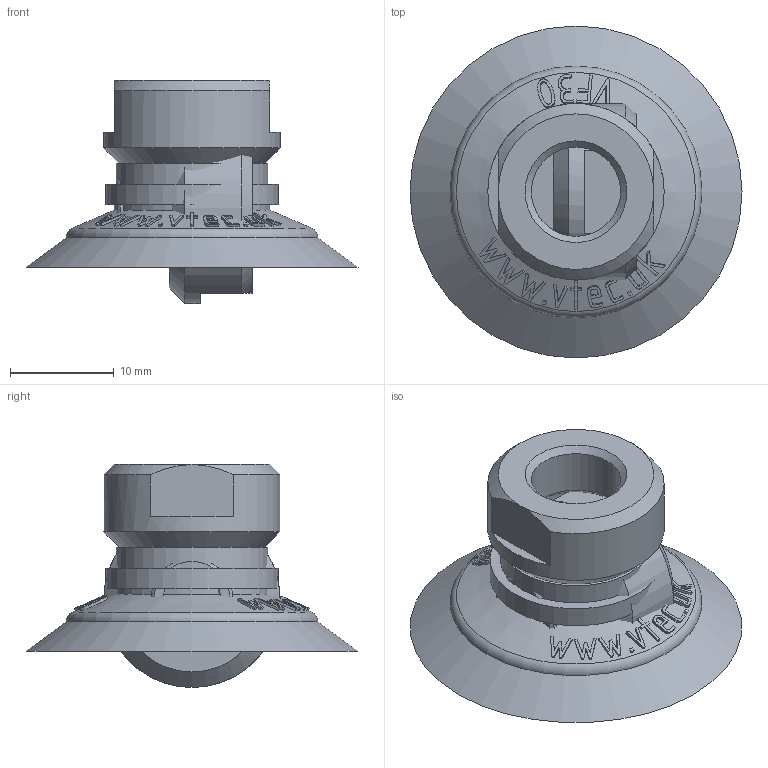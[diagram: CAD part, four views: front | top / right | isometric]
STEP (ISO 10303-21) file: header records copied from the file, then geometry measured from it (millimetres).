
FILE_DESCRIPTION( ( 'Unknown' ), '1' );
FILE_NAME( 'C:/Documents and Settings/owner/官帕 拳搁/MISUMI/PAD/VF/VF30-N-18F-BV.stp', 'Unknown', ( 'Unknown' ), ( 'Unknown' ), 'XStep 1.0', 'Unknown', ' ' );
FILE_SCHEMA( ( 'automotive_design' ) );
Length unit declared in the file: millimetre
Products named in the file (4): Assem1; VF30; FT20-18F; VF20 25 30 BV
Bounding box: 32 x 32 x 21.5 mm (x, y, z)
Volume: 7208.5 mm3; surface area: 7677.6 mm2
Topology: 6 solids, 6 shells, 456 faces, 1118 edges, 746 vertices
Faces by surface type: plane 202, bspline 112, cone 62, cylinder 46, extrusion 28, torus 4, sphere 2
Full cylindrical faces by diameter (mm): 2.3 x2, 3.6 x2, 4.4 x2, 4.6 x2, 5 x4, 6 x2, 7 x2, 7.9 x2, 8.6 x2, 10.2 x2, 14.6 x2, 15 x2, 16.6 x2, 17 x2
Entity records: 11336 total; most frequent: CARTESIAN_POINT 6704, ORIENTED_EDGE 1010, DIRECTION 574, EDGE_CURVE 505, VERTEX_POINT 353, B_SPLINE_CURVE_WITH_KNOTS 352, EDGE_LOOP 301, FACE_OUTER_BOUND 248
